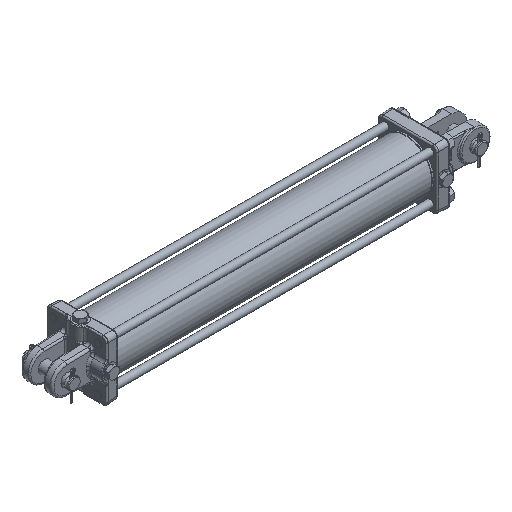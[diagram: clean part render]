
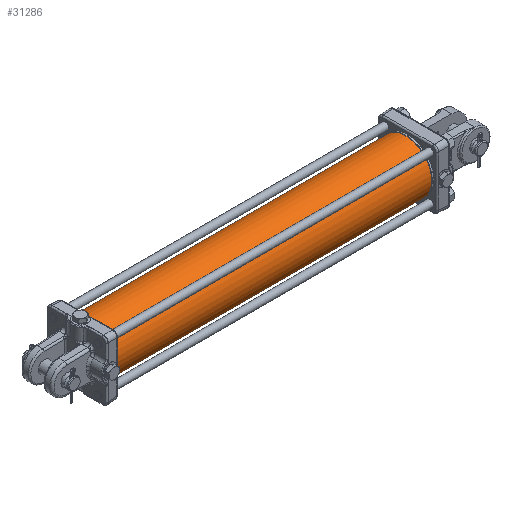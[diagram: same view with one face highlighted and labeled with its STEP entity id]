
A CAD part, isometric view. The second image highlights one B-rep face of the part: STEP entity #31286.
In plain terms, the highlighted cylindrical face has radius 55.562 mm (diameter 111.125 mm), a full revolution.
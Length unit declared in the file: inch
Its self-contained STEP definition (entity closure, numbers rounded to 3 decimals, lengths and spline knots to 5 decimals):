
#31252=CARTESIAN_POINT('',(0.0,2.1875,0.));
#31253=VERTEX_POINT('',#31252);
#31254=CARTESIAN_POINT('',(0.0,0.0,0.0));
#31255=DIRECTION('',(0.0,0.0,-1.0));
#31256=DIRECTION('',(0.0,1.0,0.0));
#31257=AXIS2_PLACEMENT_3D('',#31254,#31255,#31256);
#31258=CIRCLE('',#31257,2.1875);
#31259=EDGE_CURVE('',#31253,#31253,#31258,.T.);
#31267=CARTESIAN_POINT('',(0.0,0.0,-13.28125));
#31268=DIRECTION('',(0.0,0.0,-1.0));
#31269=DIRECTION('',(0.0,1.0,0.0));
#31270=AXIS2_PLACEMENT_3D('',#31267,#31268,#31269);
#31271=CYLINDRICAL_SURFACE('',#31270,2.1875);
#31272=CARTESIAN_POINT('',(0.0,2.1875,-26.5625));
#31273=VERTEX_POINT('',#31272);
#31274=CARTESIAN_POINT('',(0.0,0.0,-26.5625));
#31275=DIRECTION('',(0.0,0.0,-1.0));
#31276=DIRECTION('',(0.0,1.0,0.0));
#31277=AXIS2_PLACEMENT_3D('',#31274,#31275,#31276);
#31278=CIRCLE('',#31277,2.1875);
#31279=EDGE_CURVE('',#31273,#31273,#31278,.T.);
#31280=ORIENTED_EDGE('',*,*,#31279,.F.);
#31281=EDGE_LOOP('',(#31280));
#31282=FACE_OUTER_BOUND('',#31281,.T.);
#31283=ORIENTED_EDGE('',*,*,#31259,.T.);
#31284=EDGE_LOOP('',(#31283));
#31285=FACE_BOUND('',#31284,.T.);
#31286=ADVANCED_FACE('',(#31282,#31285),#31271,.T.);
